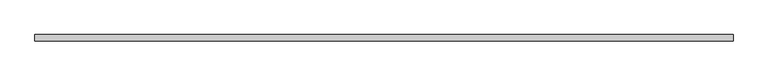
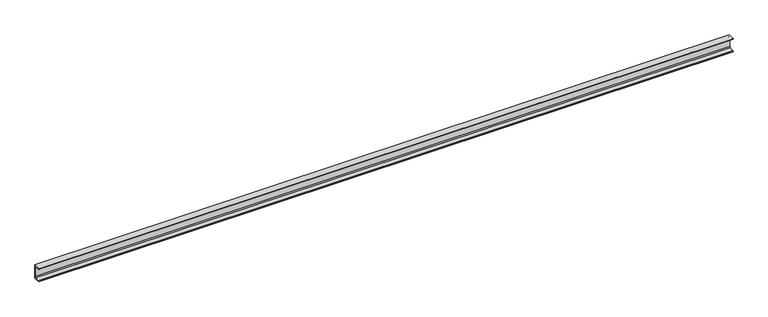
"""IFC4 building model written with IfcOpenShell, lengths in millimetres: beam geometry, C-образный профиль (ГОСТ 8240-89) Балки : [ 10."""

from ifc_helpers import new_model, si_unit, point, frame, frame_2d, origin, place, context, project, spatial, polyline, circle_curve, trimmed, segment, composite_curve, outline, extrude, source, transform, mapped, element, save


def beam_3bce2fc1(model_context):
    return source(origin(), model_context, "Body", "SweptSolid", [
        extrude(outline(composite_curve([segment(polyline([(14.4, 50.0), (14.4, -50.0), (-31.6, -50.0), (-31.6, -47.8215228)]), True, "CONTINUOUS"), segment(trimmed(circle_curve(frame_2d((-28.6, -47.8215228)), 3.0), [point((-31.6, -47.8215228))], [point((-28.9574357, -44.8428923))], False, "CARTESIAN"), True, "CONTINUOUS"), segment(polyline([(-28.9574357, -44.8428923), (3.7340165, -40.919918)]), True, "CONTINUOUS"), segment(trimmed(circle_curve(frame_2d((2.9, -33.9697801)), 7.0), [point((3.7340165, -40.919918))], [point((9.9, -33.9697801))], True, "CARTESIAN"), True, "CONTINUOUS"), segment(polyline([(9.9, -33.9697801), (9.9, 33.9697801)]), True, "CONTINUOUS"), segment(trimmed(circle_curve(frame_2d((2.9, 33.9697801)), 7.0), [point((9.9, 33.9697801))], [point((3.7340165, 40.919918))], True, "CARTESIAN"), True, "CONTINUOUS"), segment(polyline([(3.7340165, 40.919918), (-28.9574357, 44.8428923)]), True, "CONTINUOUS"), segment(trimmed(circle_curve(frame_2d((-28.6, 47.8215228)), 3.0), [point((-28.9574357, 44.8428923))], [point((-31.6, 47.8215228))], False, "CARTESIAN"), True, "CONTINUOUS"), segment(polyline([(-31.6, 47.8215228), (-31.6, 50.0), (14.4, 50.0)]), True, "CONTINUOUS")], self_intersect=False)), frame((-2500.0, 0.0, 0.0), z_axis=(1.0, 0.0, 0.0), x_axis=(0.0, 1.0, 0.0)), (0.0, 0.0, 1.0), 5000.0),
    ])


if __name__ == "__main__":
    model = new_model("IFC4")
    model_context = context("Model", 3, world=origin())
    ifc_project = project(units=[si_unit("LENGTHUNIT", "METRE", prefix="MILLI")], contexts=[model_context])
    site = spatial("IfcSite", under=ifc_project)
    building = spatial("IfcBuilding", under=site)
    placement = place(None, origin())
    beam_shape = beam_3bce2fc1(model_context)
    element("IfcBeam", 1, ObjectType="C-образный профиль (ГОСТ 8240-89) Балки : [ 10", at=placement, inside=building, context=model_context, shape_type="MappedRepresentation", body=[
        mapped(beam_shape, transform((0.0, 0.0, 0.0), x_axis=(1.0, 0.0, 0.0), y_axis=(0.0, 1.0, 0.0), z_axis=(0.0, 0.0, 1.0))),
    ])
    save(model, "model.ifc")
